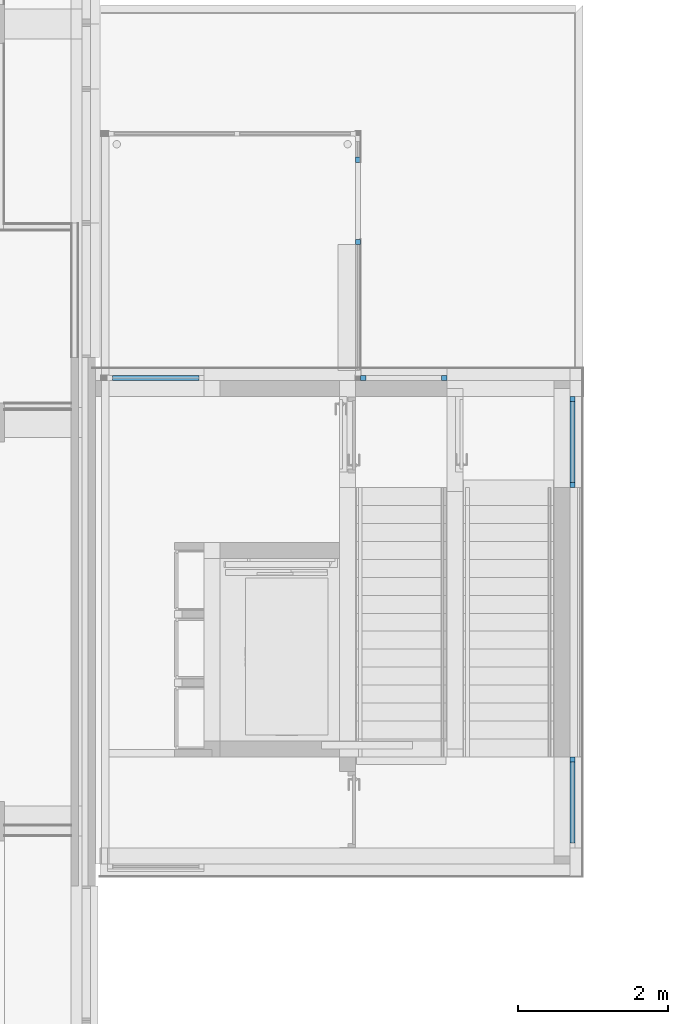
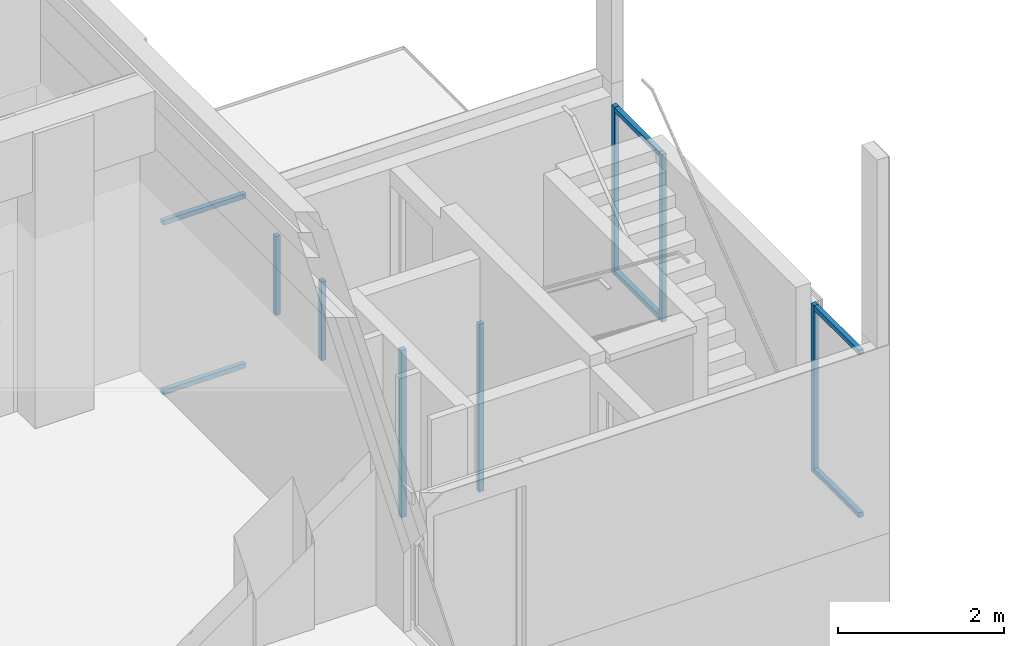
# One storey, part 3 of 117: 13 members, 5 elements without a shape of their own.
"""IFC2X3 building model written with IfcOpenShell, lengths in millimetres."""

from ifc_helpers import new_model, entity, si_unit, converted_unit, derived_unit, money_unit, direction, frame, origin_with_axes, place, context, subcontext, project, spatial, faceted_brep, source, transform, mapped, material, type_object, type_shapes, element, aggregate, save


model = new_model("IFC2X3")

# Units and contexts
model_context = context("Model", 3, precision=0.01, world=origin_with_axes(), true_north=direction((0.0, 1.0)))
body_context = subcontext(model_context, "Body", "Model", "MODEL_VIEW")
ifc_project = project(units=[si_unit("LENGTHUNIT", "METRE", prefix="MILLI"), si_unit("AREAUNIT", "SQUARE_METRE"), si_unit("VOLUMEUNIT", "CUBIC_METRE"), converted_unit("PLANEANGLEUNIT", "DEGREE", entity("IfcPlaneAngleMeasure", 0.0174532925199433), si_unit("PLANEANGLEUNIT", "RADIAN"), dimensions=[0, 0, 0, 0, 0, 0, 0]), money_unit("EUR"), converted_unit("TIMEUNIT", "Year", entity("IfcTimeMeasure", 31557600.0), si_unit("TIMEUNIT", "SECOND"), dimensions=[0, 0, 1, 0, 0, 0, 0]), si_unit("MASSUNIT", "GRAM", prefix="KILO"), si_unit("THERMODYNAMICTEMPERATUREUNIT", "DEGREE_CELSIUS"), si_unit("LUMINOUSINTENSITYUNIT", "LUMEN"), si_unit("ENERGYUNIT", "JOULE", prefix="MEGA"), derived_unit("THERMALCONDUCTANCEUNIT", [(si_unit("POWERUNIT", "WATT"), 1), (si_unit("LENGTHUNIT", "METRE"), -1), (si_unit("THERMODYNAMICTEMPERATUREUNIT", "KELVIN"), -1)]), derived_unit("SPECIFICHEATCAPACITYUNIT", [(si_unit("ENERGYUNIT", "JOULE"), 1), (si_unit("MASSUNIT", "GRAM", prefix="KILO"), -1), (si_unit("THERMODYNAMICTEMPERATUREUNIT", "KELVIN"), -1)]), derived_unit("MASSDENSITYUNIT", [(si_unit("MASSUNIT", "GRAM", prefix="KILO"), 1), (si_unit("VOLUMEUNIT", "CUBIC_METRE"), -1)])], contexts=[model_context])

# Site, building, storey
site_placement = place(None, origin_with_axes())
site = spatial("IfcSite", under=ifc_project, at=site_placement, Name="Site", CompositionType="ELEMENT")
building_placement = place(site_placement, origin_with_axes())
building = spatial("IfcBuilding", under=site, at=building_placement, Name="Naam gebouw", CompositionType="ELEMENT")
storey_placement = place(building_placement, frame((0.0, 0.0, 4150.0), z_axis=(0.0, 0.0, 1.0), x_axis=(1.0, 0.0, 0.0)))
storey = spatial("IfcBuildingStorey", under=building, at=storey_placement, Name="1e verdieping N", CompositionType="ELEMENT", Elevation=4150.0)

# Curtain wall, member
curtain_wall_type = type_object("IfcCurtainWallType", Name="Curtain Wall:21_CW_alu kozijn 070x065", PredefinedType="NOTDEFINED")
curtain_wall_1_placement = place(storey_placement, frame((0.0, 0.0, -4150.0), z_axis=(0.0, 0.0, 1.0), x_axis=(1.0, 0.0, 0.0)))
curtain_wall_1 = element("IfcCurtainWall", 1, at=curtain_wall_1_placement, inside=storey, type_object=curtain_wall_type, Name="Curtain Wall:21_CW_alu kozijn 070x065", ObjectType="Curtain Wall:21_CW_alu kozijn 070x065")
ifc_material = material(Name="RAL 7024 - Grafietgrijs")
member_type_1 = type_object("IfcMemberType", Name="Rectangular Mullion:31_alu_070x065 RAL 7024", PredefinedType="MULLION")
shared_shape_1 = source(origin_with_axes(), body_context, "Body", "Brep", [
    faceted_brep([(32.49999999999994, 1080.0, 0.0), (32.49999999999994, 1080.0, 70.0), (32.50000000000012, 0.0, 70.0), (32.50000000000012, 0.0, 0.0), (-32.50000000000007, 1080.0, 0.0), (-32.50000000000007, 1080.0, 70.0), (-32.4999999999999, 0.0, 70.0), (-32.4999999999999, 0.0, 0.0)], [[[0, 1, 2, 3]], [[0, 4, 5, 1]], [[1, 5, 6, 2]], [[3, 2, 6, 7]], [[4, 0, 3, 7]], [[5, 4, 7, 6]]]),
])
type_shapes(member_type_1, [shared_shape_1])
member_1_placement = place(curtain_wall_1_placement, frame((36613.5000000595, 34075.91242622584, 3150.0), z_axis=(0.0, 0.0, 1.0), x_axis=(-1.0, 0.0, 0.0)))
member_1 = element("IfcMember", 2, at=member_1_placement, type_object=member_type_1, material=ifc_material, Name="Rectangular Mullion:31_alu_070x065 RAL 7024", ObjectType="MULLION", context=body_context, shape_type="MappedRepresentation", body=[
    mapped(shared_shape_1, transform((0.0, 0.0, 0.0))),
])

# Curtain wall, members
curtain_wall_2_placement = place(storey_placement, frame((0.0, 0.0, -4150.0), z_axis=(0.0, 0.0, 1.0), x_axis=(1.0, 0.0, 0.0)))
curtain_wall_2 = element("IfcCurtainWall", 3, at=curtain_wall_2_placement, inside=storey, type_object=curtain_wall_type, Name="Curtain Wall:21_CW_alu kozijn 070x065", ObjectType="Curtain Wall:21_CW_alu kozijn 070x065")
member_2_placement = place(curtain_wall_2_placement, frame((36613.5000000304, 38895.91242634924, 3150.0), z_axis=(0.0, 0.0, 1.0), x_axis=(-1.0, 0.0, 0.0)))
member_2 = element("IfcMember", 4, at=member_2_placement, type_object=member_type_1, material=ifc_material, Name="Rectangular Mullion:31_alu_070x065 RAL 7024", ObjectType="MULLION", context=body_context, shape_type="MappedRepresentation", body=[
    mapped(shared_shape_1, transform((0.0, 0.0, 0.0))),
])
member_type_2 = type_object("IfcMemberType", Name="Rectangular Mullion:31_alu_070x065 RAL 7024", PredefinedType="MULLION")
shared_shape_2 = source(origin_with_axes(), body_context, "Body", "Brep", [
    faceted_brep([(0.0, -32.5, 2470.0), (-70.0, -32.50000000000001, 2470.0), (-70.0, -32.50000000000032, 0.0), (0.0, -32.50000000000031, 0.0), (0.0, 32.50000000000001, 2470.0), (-70.0, 32.5, 2470.0), (-70.0, 32.49999999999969, 0.0), (0.0, 32.49999999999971, 0.0)], [[[0, 1, 2, 3]], [[0, 4, 5, 1]], [[1, 5, 6, 2]], [[3, 2, 6, 7]], [[4, 0, 3, 7]], [[5, 4, 7, 6]]]),
])
type_shapes(member_type_2, [shared_shape_2])
member_3_placement = place(curtain_wall_2_placement, frame((36613.5000000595, 37745.91242626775, 3150.0), z_axis=(0.0, 0.0, 1.0), x_axis=(0.0, -1.0, 0.0)))
member_3 = element("IfcMember", 5, at=member_3_placement, type_object=member_type_2, material=ifc_material, Name="Rectangular Mullion:31_alu_070x065 RAL 7024", ObjectType="MULLION", context=body_context, shape_type="MappedRepresentation", body=[
    mapped(shared_shape_2, transform((0.0, 0.0, 0.0))),
])

# Curtain wall, member
curtain_wall_3_placement = place(storey_placement, frame((0.0, 0.0, -4150.0), z_axis=(0.0, 0.0, 1.0), x_axis=(1.0, 0.0, 0.0)))
curtain_wall_3 = element("IfcCurtainWall", 6, at=curtain_wall_3_placement, inside=storey, type_object=curtain_wall_type, Name="Curtain Wall:21_CW_alu kozijn 070x065", ObjectType="Curtain Wall:21_CW_alu kozijn 070x065")
member_4_placement = place(curtain_wall_3_placement, frame((34933.00000004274, 39212.4124263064, 379.9999999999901), z_axis=(0.0, 0.0, 1.0), x_axis=(1.0, 0.0, 0.0)))
member_4 = element("IfcMember", 7, at=member_4_placement, type_object=member_type_2, material=ifc_material, Name="Rectangular Mullion:31_alu_070x065 RAL 7024", ObjectType="MULLION", context=body_context, shape_type="MappedRepresentation", body=[
    mapped(shared_shape_2, transform((0.0, 0.0, 0.0))),
])

# Member
member_type_3 = type_object("IfcMemberType", Name="Rectangular Mullion:31_alu_070x065 RAL 7024", PredefinedType="MULLION")
shared_shape_3 = source(origin_with_axes(), body_context, "Body", "Brep", [
    faceted_brep([(0.0, 32.5, -2470.0), (-70.0, 32.50000000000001, -2470.0), (-70.0, 32.50000000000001, 0.0), (0.0, 32.5, 0.0), (0.0, -32.50000000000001, -2470.0), (-70.0, -32.5, -2470.0), (-70.0, -32.5, 0.0), (0.0, -32.50000000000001, 0.0)], [[[0, 1, 2, 3]], [[0, 4, 5, 1]], [[1, 5, 6, 2]], [[3, 2, 6, 7]], [[4, 0, 3, 7]], [[5, 4, 7, 6]]]),
])
type_shapes(member_type_3, [shared_shape_3])
member_5_placement = place(curtain_wall_1_placement, frame((36613.5000000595, 34145.91242629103, 5619.999999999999), z_axis=(0.0, 0.0, 1.0), x_axis=(0.0, 1.0, 0.0)))
member_5 = element("IfcMember", 8, at=member_5_placement, type_object=member_type_3, material=ifc_material, Name="Rectangular Mullion:31_alu_070x065 RAL 7024", ObjectType="MULLION", context=body_context, shape_type="MappedRepresentation", body=[
    mapped(shared_shape_3, transform((0.0, 0.0, 0.0))),
])

member_6_placement = place(curtain_wall_2_placement, frame((36613.5000000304, 38965.91242629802, 5619.999999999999), z_axis=(0.0, 0.0, 1.0), x_axis=(0.0, 1.0, 0.0)))
member_6 = element("IfcMember", 9, at=member_6_placement, type_object=member_type_3, material=ifc_material, Name="Rectangular Mullion:31_alu_070x065 RAL 7024", ObjectType="MULLION", context=body_context, shape_type="MappedRepresentation", body=[
    mapped(shared_shape_3, transform((0.0, 0.0, 0.0))),
])

member_7_placement = place(curtain_wall_3_placement, frame((33778.0000000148, 39212.4124263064, 2849.999999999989), z_axis=(0.0, 0.0, 1.0), x_axis=(-1.0, 0.0, 0.0)))
member_7 = element("IfcMember", 10, at=member_7_placement, type_object=member_type_3, material=ifc_material, Name="Rectangular Mullion:31_alu_070x065 RAL 7024", ObjectType="MULLION", context=body_context, shape_type="MappedRepresentation", body=[
    mapped(shared_shape_3, transform((0.0, 0.0, 0.0))),
])

aggregate(curtain_wall_3, [member_7, member_4])

member_type_4 = type_object("IfcMemberType", Name="Rectangular Mullion:31_alu_070x065 RAL 7024", PredefinedType="MULLION")
shared_shape_4 = source(origin_with_axes(), body_context, "Body", "Brep", [
    faceted_brep([(32.50000000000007, -1080.0, 0.0), (32.50000000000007, -1080.0, -70.0), (32.4999999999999, 0.0, -70.0), (32.4999999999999, 0.0, 0.0), (-32.49999999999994, -1080.0, 0.0), (-32.49999999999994, -1080.0, -70.0), (-32.50000000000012, 0.0, -70.0), (-32.50000000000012, 0.0, 0.0)], [[[0, 1, 2, 3]], [[0, 4, 5, 1]], [[1, 5, 6, 2]], [[3, 2, 6, 7]], [[4, 0, 3, 7]], [[5, 4, 7, 6]]]),
])
type_shapes(member_type_4, [shared_shape_4])
member_8_placement = place(curtain_wall_1_placement, frame((36613.5000000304, 32995.91242626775, 5619.999999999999), z_axis=(0.0, 0.0, 1.0), x_axis=(-1.0, 0.0, 0.0)))
member_8 = element("IfcMember", 11, at=member_8_placement, type_object=member_type_4, material=ifc_material, Name="Rectangular Mullion:31_alu_070x065 RAL 7024", ObjectType="MULLION", context=body_context, shape_type="MappedRepresentation", body=[
    mapped(shared_shape_4, transform((0.0, 0.0, 0.0))),
])

aggregate(curtain_wall_1, [member_1, member_5, member_8])

member_9_placement = place(curtain_wall_2_placement, frame((36613.5000000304, 37815.91242633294, 5619.999999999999), z_axis=(0.0, 0.0, 1.0), x_axis=(-1.0, 0.0, 0.0)))
member_9 = element("IfcMember", 12, at=member_9_placement, type_object=member_type_4, material=ifc_material, Name="Rectangular Mullion:31_alu_070x065 RAL 7024", ObjectType="MULLION", context=body_context, shape_type="MappedRepresentation", body=[
    mapped(shared_shape_4, transform((0.0, 0.0, 0.0))),
])

aggregate(curtain_wall_2, [member_3, member_2, member_9, member_6])

# Curtain wall, members
curtain_wall_4_placement = place(storey_placement, frame((0.0, 0.0, -4150.0), z_axis=(0.0, 0.0, 1.0), x_axis=(1.0, 0.0, 0.0)))
curtain_wall_4 = element("IfcCurtainWall", 13, at=curtain_wall_4_placement, inside=storey, type_object=curtain_wall_type, Name="Curtain Wall:21_CW_alu kozijn 070x065", ObjectType="Curtain Wall:21_CW_alu kozijn 070x065")
member_type_5 = type_object("IfcMemberType", Name="Rectangular Mullion:31_alu_070x065 RAL 7024", PredefinedType="MULLION")
shared_shape_5 = source(origin_with_axes(), body_context, "Body", "Brep", [
    faceted_brep([(32.49999999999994, 1154.0, 0.0), (32.49999999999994, 1154.0, 70.0), (32.50000000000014, -2.993161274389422e-10, 70.0), (32.50000000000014, -2.993161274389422e-10, 0.0), (-32.50000000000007, 1154.0, 0.0), (-32.50000000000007, 1154.0, 70.0), (-32.49999999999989, -2.993161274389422e-10, 70.0), (-32.49999999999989, -2.993161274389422e-10, 0.0)], [[[0, 1, 2, 3]], [[0, 4, 5, 1]], [[1, 5, 6, 2]], [[3, 2, 6, 7]], [[4, 0, 3, 7]], [[5, 4, 7, 6]]]),
])
type_shapes(member_type_5, [shared_shape_5])
member_10_placement = place(curtain_wall_4_placement, frame((31615.00000004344, 39212.4124263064, 3349.999999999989), z_axis=(0.0, 0.0, 1.0), x_axis=(0.0, 1.0, 0.0)))
member_10 = element("IfcMember", 14, at=member_10_placement, type_object=member_type_5, material=ifc_material, Name="Rectangular Mullion:31_alu_070x065 RAL 7024", ObjectType="MULLION", context=body_context, shape_type="MappedRepresentation", body=[
    mapped(shared_shape_5, transform((0.0, 0.0, 0.0))),
])
member_type_6 = type_object("IfcMemberType", Name="Rectangular Mullion:31_alu_070x065 RAL 7024", PredefinedType="MULLION")
shared_shape_6 = source(origin_with_axes(), body_context, "Body", "Brep", [
    faceted_brep([(32.50000000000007, -1154.0, 0.0), (32.50000000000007, -1154.0, -70.0), (32.49999999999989, 2.993161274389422e-10, -70.0), (32.49999999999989, 2.993161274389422e-10, 0.0), (-32.49999999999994, -1154.0, 0.0), (-32.49999999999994, -1154.0, -70.0), (-32.50000000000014, 2.993161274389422e-10, -70.0), (-32.50000000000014, 2.993161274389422e-10, 0.0)], [[[0, 1, 2, 3]], [[0, 4, 5, 1]], [[1, 5, 6, 2]], [[3, 2, 6, 7]], [[4, 0, 3, 7]], [[5, 4, 7, 6]]]),
])
type_shapes(member_type_6, [shared_shape_6])
member_11_placement = place(curtain_wall_4_placement, frame((30461.00000003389, 39212.41242624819, 5920.000000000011), z_axis=(0.0, 0.0, 1.0), x_axis=(0.0, 1.0, 0.0)))
member_11 = element("IfcMember", 15, at=member_11_placement, type_object=member_type_6, material=ifc_material, Name="Rectangular Mullion:31_alu_070x065 RAL 7024", ObjectType="MULLION", context=body_context, shape_type="MappedRepresentation", body=[
    mapped(shared_shape_6, transform((0.0, 0.0, 0.0))),
])
aggregate(curtain_wall_4, [member_11, member_10])

curtain_wall_5_placement = place(storey_placement, frame((0.0, 0.0, -4150.0), z_axis=(0.0, 0.0, 1.0), x_axis=(1.0, 0.0, 0.0)))
curtain_wall_5 = element("IfcCurtainWall", 16, at=curtain_wall_5_placement, inside=storey, type_object=curtain_wall_type, Name="Curtain Wall:21_CW_alu kozijn 070x065", ObjectType="Curtain Wall:21_CW_alu kozijn 070x065")
member_type_7 = type_object("IfcMemberType", Name="Rectangular Mullion:31_alu_070x065 RAL 7024", PredefinedType="MULLION")
shared_shape_7 = source(origin_with_axes(), body_context, "Body", "Brep", [
    faceted_brep([(35.00000000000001, -32.5, 1167.2), (-34.99999999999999, -32.50000000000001, 1167.2), (-34.99999999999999, -32.50000000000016, 0.0), (35.00000000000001, -32.50000000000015, 0.0), (34.99999999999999, 32.5, 1167.2), (-35.00000000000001, 32.49999999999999, 1167.2), (-35.00000000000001, 32.49999999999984, 0.0), (34.99999999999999, 32.49999999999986, 0.0)], [[[0, 1, 2, 3]], [[0, 4, 5, 1]], [[1, 5, 6, 2]], [[3, 2, 6, 7]], [[4, 0, 3, 7]], [[5, 4, 7, 6]]]),
])
type_shapes(member_type_7, [shared_shape_7])
member_12_placement = place(curtain_wall_5_placement, frame((33745.50000004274, 42129.61242627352, 1612.799999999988), z_axis=(0.0, 0.0, 1.0), x_axis=(0.0, 1.0, 0.0)))
member_12 = element("IfcMember", 17, at=member_12_placement, type_object=member_type_7, material=ifc_material, Name="Rectangular Mullion:31_alu_070x065 RAL 7024", ObjectType="MULLION", context=body_context, shape_type="MappedRepresentation", body=[
    mapped(shared_shape_7, transform((0.0, 0.0, 0.0))),
])
member_type_8 = type_object("IfcMemberType", Name="Rectangular Mullion:31_alu_070x065 RAL 7024", PredefinedType="MULLION")
type_shapes(member_type_8, [shared_shape_7])
member_13_placement = place(curtain_wall_5_placement, frame((33745.50000004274, 41029.61242629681, 1612.799999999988), z_axis=(0.0, 0.0, 1.0), x_axis=(0.0, 1.0, 0.0)))
member_13 = element("IfcMember", 18, at=member_13_placement, type_object=member_type_8, material=ifc_material, Name="Rectangular Mullion:31_alu_070x065 RAL 7024", ObjectType="MULLION", context=body_context, shape_type="MappedRepresentation", body=[
    mapped(shared_shape_7, transform((0.0, 0.0, 0.0))),
])
aggregate(curtain_wall_5, [member_12, member_13])

save(model, "model.ifc")
